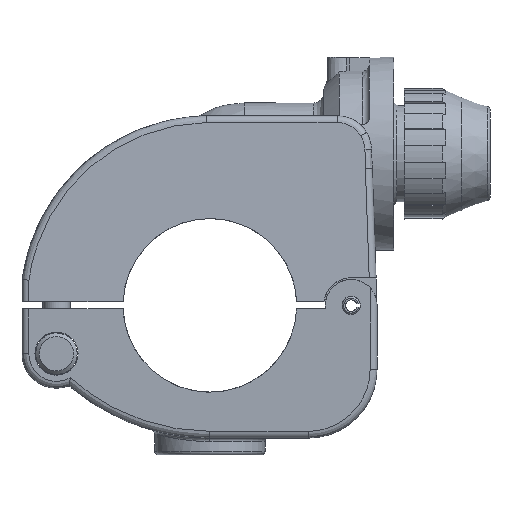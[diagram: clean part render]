
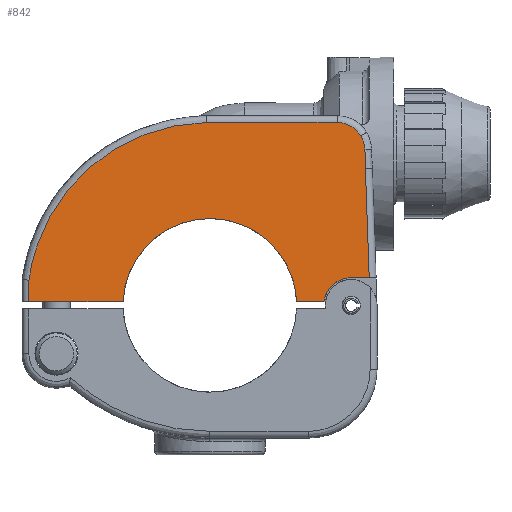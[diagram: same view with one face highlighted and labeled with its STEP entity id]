
A CAD part, left-side view. The second image highlights one B-rep face of the part: STEP entity #842.
In plain terms, the highlighted planar face has unit normal (-0.999, 0, 0.035).
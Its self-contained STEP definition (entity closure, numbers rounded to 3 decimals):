
#842 = ADVANCED_FACE( '', ( #1922 ), #1923, .F. );
#1922 = FACE_OUTER_BOUND( '', #9563, .T. );
#1923 = PLANE( '', #9564 );
#9563 = EDGE_LOOP( '', ( #20756, #20757, #20758, #20759, #20760, #20761, #20762, #20763, #20764, #20765, #20766, #20767 ) );
#9564 = AXIS2_PLACEMENT_3D( '', #20768, #20769, #20770 );
#20756 = ORIENTED_EDGE( '', *, *, #22883, .F. );
#20757 = ORIENTED_EDGE( '', *, *, #23566, .F. );
#20758 = ORIENTED_EDGE( '', *, *, #23199, .F. );
#20759 = ORIENTED_EDGE( '', *, *, #23567, .F. );
#20760 = ORIENTED_EDGE( '', *, *, #23130, .F. );
#20761 = ORIENTED_EDGE( '', *, *, #23568, .F. );
#20762 = ORIENTED_EDGE( '', *, *, #23087, .F. );
#20763 = ORIENTED_EDGE( '', *, *, #23569, .F. );
#20764 = ORIENTED_EDGE( '', *, *, #22991, .F. );
#20765 = ORIENTED_EDGE( '', *, *, #23570, .F. );
#20766 = ORIENTED_EDGE( '', *, *, #23379, .F. );
#20767 = ORIENTED_EDGE( '', *, *, #23421, .F. );
#20768 = CARTESIAN_POINT( '', ( -30.996, -75.5, 44.349 ) );
#20769 = DIRECTION( '', ( 0.999, 0., -0.035 ) );
#20770 = DIRECTION( '', ( 0.035, 0., 0.999 ) );
#22883 = EDGE_CURVE( '', #24346, #24348, #24349, .T. );
#22991 = EDGE_CURVE( '', #24536, #24538, #24539, .F. );
#23087 = EDGE_CURVE( '', #24701, #24702, #24703, .F. );
#23130 = EDGE_CURVE( '', #24770, #24772, #24773, .F. );
#23199 = EDGE_CURVE( '', #24884, #24886, #24887, .T. );
#23379 = EDGE_CURVE( '', #25168, #25161, #25170, .F. );
#23421 = EDGE_CURVE( '', #24348, #25168, #25240, .T. );
#23566 = EDGE_CURVE( '', #24886, #24346, #25451, .T. );
#23567 = EDGE_CURVE( '', #24772, #24884, #25452, .T. );
#23568 = EDGE_CURVE( '', #24702, #24770, #25453, .T. );
#23569 = EDGE_CURVE( '', #24538, #24701, #25454, .F. );
#23570 = EDGE_CURVE( '', #25161, #24536, #25455, .F. );
#24346 = VERTEX_POINT( '', #27501 );
#24348 = VERTEX_POINT( '', #27503 );
#24349 = LINE( '', #27504, #27505 );
#24536 = VERTEX_POINT( '', #28006 );
#24538 = VERTEX_POINT( '', #28009 );
#24539 = LINE( '', #28010, #28011 );
#24701 = VERTEX_POINT( '', #29073 );
#24702 = VERTEX_POINT( '', #29074 );
#24703 = ELLIPSE( '', #29075, 53.032, 53. );
#24770 = VERTEX_POINT( '', #29394 );
#24772 = VERTEX_POINT( '', #29396 );
#24773 = ELLIPSE( '', #29397, 8.005, 8. );
#24884 = VERTEX_POINT( '', #30212 );
#24886 = VERTEX_POINT( '', #30214 );
#24887 = B_SPLINE_CURVE_WITH_KNOTS( '', 3, ( #30215, #30216, #30217, #30218, #30219, #30220, #30221, #30222, #30223, #30224, #30225, #30226 ), .UNSPECIFIED., .F., .F., ( 4, 1, 2, 1, 1, 1, 1, 1, 4 ), ( 0., 0.001, 0.001, 0.002, 0.003, 0.004, 0.004, 0.005, 0.006 ), .UNSPECIFIED. );
#25161 = VERTEX_POINT( '', #31540 );
#25168 = VERTEX_POINT( '', #31551 );
#25170 = LINE( '', #31554, #31555 );
#25240 = ELLIPSE( '', #31645, 8.005, 8. );
#25451 = LINE( '', #33038, #33039 );
#25452 = B_SPLINE_CURVE_WITH_KNOTS( '', 3, ( #33040, #33041, #33042, #33043, #33044, #33045, #33046, #33047, #33048, #33049, #33050, #33051, #33052, #33053, #33054, #33055, #33056, #33057, #33058, #33059 ), .UNSPECIFIED., .F., .F., ( 4, 2, 2, 1, 1, 1, 1, 2, 2, 2, 1, 1, 4 ), ( 0., 0., 0., 0.001, 0.001, 0.002, 0.002, 0.003, 0.003, 0.003, 0.003, 0.004, 0.004 ), .UNSPECIFIED. );
#25453 = LINE( '', #33060, #33061 );
#25454 = LINE( '', #33062, #33063 );
#25455 = ELLIPSE( '', #33064, 25.215, 25.2 );
#27501 = CARTESIAN_POINT( '', ( -30.753, -46.224, 51.296 ) );
#27503 = CARTESIAN_POINT( '', ( -30.753, -40.08, 51.296 ) );
#27504 = CARTESIAN_POINT( '', ( -30.753, -75.5, 51.296 ) );
#27505 = VECTOR( '', #37625, 1000. );
#28006 = CARTESIAN_POINT( '', ( -30.996, 25.18, 44.349 ) );
#28009 = CARTESIAN_POINT( '', ( -30.996, 52.5, 44.349 ) );
#28010 = CARTESIAN_POINT( '', ( -30.996, -75.5, 44.349 ) );
#28011 = VECTOR( '', #37765, 1000. );
#29073 = CARTESIAN_POINT( '', ( -30.774, 52.5, 50.682 ) );
#29074 = CARTESIAN_POINT( '', ( -29.178, 1.05, 96.414 ) );
#29075 = AXIS2_PLACEMENT_3D( '', #37859, #37860, #37861 );
#29394 = CARTESIAN_POINT( '', ( -29.177, -36.922, 96.419 ) );
#29396 = CARTESIAN_POINT( '', ( -29.312, -43.775, 92.548 ) );
#29397 = AXIS2_PLACEMENT_3D( '', #37915, #37916, #37917 );
#30212 = CARTESIAN_POINT( '', ( -29.448, -44.987, 88.676 ) );
#30214 = CARTESIAN_POINT( '', ( -29.648, -45.119, 82.933 ) );
#30215 = CARTESIAN_POINT( '', ( -29.448, -44.987, 88.676 ) );
#30216 = CARTESIAN_POINT( '', ( -29.456, -44.996, 88.437 ) );
#30217 = CARTESIAN_POINT( '', ( -29.473, -45.013, 87.958 ) );
#30218 = CARTESIAN_POINT( '', ( -29.489, -45.026, 87.48 ) );
#30219 = CARTESIAN_POINT( '', ( -29.506, -45.038, 87.001 ) );
#30220 = CARTESIAN_POINT( '', ( -29.523, -45.049, 86.522 ) );
#30221 = CARTESIAN_POINT( '', ( -29.548, -45.061, 85.805 ) );
#30222 = CARTESIAN_POINT( '', ( -29.573, -45.072, 85.087 ) );
#30223 = CARTESIAN_POINT( '', ( -29.598, -45.083, 84.369 ) );
#30224 = CARTESIAN_POINT( '', ( -29.623, -45.097, 83.651 ) );
#30225 = CARTESIAN_POINT( '', ( -29.64, -45.111, 83.172 ) );
#30226 = CARTESIAN_POINT( '', ( -29.648, -45.119, 82.933 ) );
#31540 = CARTESIAN_POINT( '', ( -30.996, -25.18, 44.349 ) );
#31551 = CARTESIAN_POINT( '', ( -30.996, -33.063, 44.349 ) );
#31554 = CARTESIAN_POINT( '', ( -30.996, -75.5, 44.349 ) );
#31555 = VECTOR( '', #38213, 1000. );
#31645 = AXIS2_PLACEMENT_3D( '', #38288, #38289, #38290 );
#33038 = CARTESIAN_POINT( '', ( -31.031, -46.502, 43.338 ) );
#33039 = VECTOR( '', #38448, 1000. );
#33040 = CARTESIAN_POINT( '', ( -29.312, -43.775, 92.548 ) );
#33041 = CARTESIAN_POINT( '', ( -29.315, -43.819, 92.475 ) );
#33042 = CARTESIAN_POINT( '', ( -29.318, -43.862, 92.401 ) );
#33043 = CARTESIAN_POINT( '', ( -29.322, -43.926, 92.289 ) );
#33044 = CARTESIAN_POINT( '', ( -29.323, -43.946, 92.251 ) );
#33045 = CARTESIAN_POINT( '', ( -29.325, -43.988, 92.176 ) );
#33046 = CARTESIAN_POINT( '', ( -29.332, -44.089, 91.987 ) );
#33047 = CARTESIAN_POINT( '', ( -29.344, -44.26, 91.643 ) );
#33048 = CARTESIAN_POINT( '', ( -29.36, -44.46, 91.174 ) );
#33049 = CARTESIAN_POINT( '', ( -29.377, -44.631, 90.694 ) );
#33050 = CARTESIAN_POINT( '', ( -29.389, -44.725, 90.366 ) );
#33051 = CARTESIAN_POINT( '', ( -29.396, -44.777, 90.158 ) );
#33052 = CARTESIAN_POINT( '', ( -29.397, -44.787, 90.117 ) );
#33053 = CARTESIAN_POINT( '', ( -29.4, -44.807, 90.033 ) );
#33054 = CARTESIAN_POINT( '', ( -29.402, -44.816, 89.991 ) );
#33055 = CARTESIAN_POINT( '', ( -29.406, -44.843, 89.866 ) );
#33056 = CARTESIAN_POINT( '', ( -29.415, -44.893, 89.613 ) );
#33057 = CARTESIAN_POINT( '', ( -29.43, -44.955, 89.189 ) );
#33058 = CARTESIAN_POINT( '', ( -29.442, -44.98, 88.847 ) );
#33059 = CARTESIAN_POINT( '', ( -29.448, -44.987, 88.676 ) );
#33060 = CARTESIAN_POINT( '', ( -29.177, 0., 96.419 ) );
#33061 = VECTOR( '', #38449, 1000. );
#33062 = CARTESIAN_POINT( '', ( -30.772, 52.5, 50.749 ) );
#33063 = VECTOR( '', #38450, 1000. );
#33064 = AXIS2_PLACEMENT_3D( '', #38451, #38452, #38453 );
#37625 = DIRECTION( '', ( 0., 1., 0. ) );
#37765 = DIRECTION( '', ( 0., -1., 0. ) );
#37859 = CARTESIAN_POINT( '', ( -31.028, 0., 43.419 ) );
#37860 = DIRECTION( '', ( -0.999, 0., 0.035 ) );
#37861 = DIRECTION( '', ( 0.035, 0., 0.999 ) );
#37915 = CARTESIAN_POINT( '', ( -29.457, -36.922, 88.419 ) );
#37916 = DIRECTION( '', ( -0.999, 0., 0.035 ) );
#37917 = DIRECTION( '', ( -0.035, 0., -0.999 ) );
#38213 = DIRECTION( '', ( 0., -1., 0. ) );
#38288 = CARTESIAN_POINT( '', ( -31.031, -41., 43.349 ) );
#38289 = DIRECTION( '', ( -0.999, 0., 0.035 ) );
#38290 = DIRECTION( '', ( 0.035, 0., 0.999 ) );
#38448 = DIRECTION( '', ( -0.035, -0.035, -0.999 ) );
#38449 = DIRECTION( '', ( 0., -1., 0. ) );
#38450 = DIRECTION( '', ( -0.035, 0., -0.999 ) );
#38451 = CARTESIAN_POINT( '', ( -31.031, 0., 43.349 ) );
#38452 = DIRECTION( '', ( 0.999, 0., -0.035 ) );
#38453 = DIRECTION( '', ( 0.035, 0., 0.999 ) );
